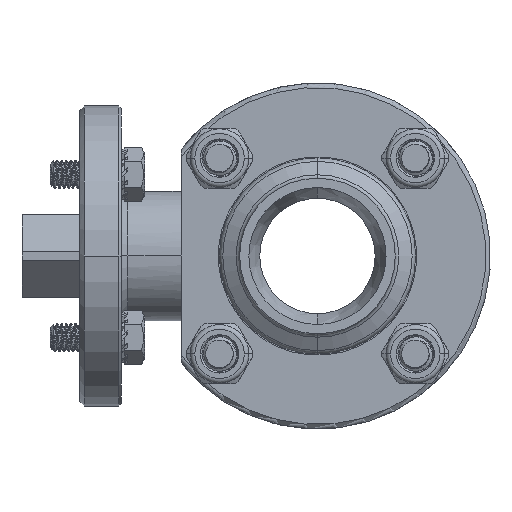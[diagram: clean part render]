
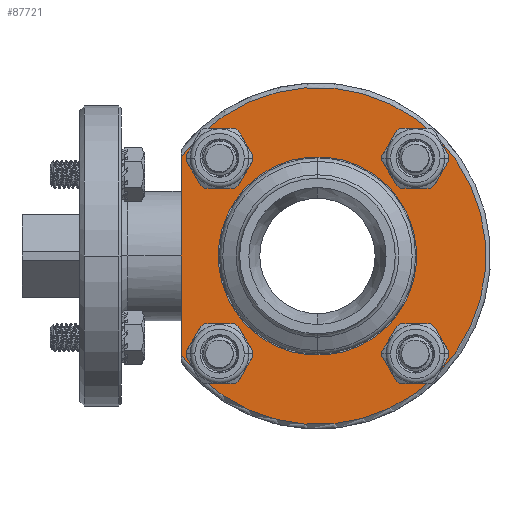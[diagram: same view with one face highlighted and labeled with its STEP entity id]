
A CAD part, left-side view. The second image highlights one B-rep face of the part: STEP entity #87721.
In plain terms, the highlighted planar face has unit normal (-1, 0, 0).
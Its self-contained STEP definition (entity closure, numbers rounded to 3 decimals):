
#4193=CARTESIAN_POINT('',(-27.75,29.5,21.494));
#4228=CARTESIAN_POINT('',(-27.75,29.5,-21.494));
#4261=CARTESIAN_POINT('',(-27.75,0.,0.));
#4262=DIRECTION('',(-1.,0.,0.));
#4263=DIRECTION('',(0.,0.808,-0.589));
#4264=AXIS2_PLACEMENT_3D('',#4261,#4262,#4263);
#4269=DIRECTION('',(0.,0.,1.));
#4270=VECTOR('',#4269,42.988);
#4271=CARTESIAN_POINT('',(-27.75,29.5,-21.494));
#4272=LINE('',#4271,#4270);
#4276=CARTESIAN_POINT('',(-27.75,0.,0.));
#4277=DIRECTION('',(1.,0.,0.));
#4278=DIRECTION('',(0.,0.707,-0.707));
#4279=AXIS2_PLACEMENT_3D('',#4276,#4277,#4278);
#4284=CARTESIAN_POINT('',(-27.75,0.,0.));
#4285=DIRECTION('',(-1.,0.,0.));
#4286=DIRECTION('',(0.,0.707,-0.707));
#4287=AXIS2_PLACEMENT_3D('',#4284,#4285,#4286);
#4292=CARTESIAN_POINT('',(-27.75,21.213,21.213));
#4293=DIRECTION('',(-1.,0.,0.));
#4294=DIRECTION('',(0.,-1.,0.));
#4295=AXIS2_PLACEMENT_3D('',#4292,#4293,#4294);
#4300=CARTESIAN_POINT('',(-27.75,21.213,21.213));
#4301=DIRECTION('',(-1.,0.,0.));
#4302=DIRECTION('',(0.,1.,0.));
#4303=AXIS2_PLACEMENT_3D('',#4300,#4301,#4302);
#4308=CARTESIAN_POINT('',(-27.75,-21.213,21.213));
#4309=DIRECTION('',(-1.,0.,0.));
#4310=DIRECTION('',(0.,-1.,0.));
#4311=AXIS2_PLACEMENT_3D('',#4308,#4309,#4310);
#4316=CARTESIAN_POINT('',(-27.75,-21.213,21.213));
#4317=DIRECTION('',(-1.,0.,0.));
#4318=DIRECTION('',(0.,1.,0.));
#4319=AXIS2_PLACEMENT_3D('',#4316,#4317,#4318);
#4324=CARTESIAN_POINT('',(-27.75,-21.213,-21.213));
#4325=DIRECTION('',(-1.,0.,0.));
#4326=DIRECTION('',(0.,-1.,0.));
#4327=AXIS2_PLACEMENT_3D('',#4324,#4325,#4326);
#4332=CARTESIAN_POINT('',(-27.75,-21.213,-21.213));
#4333=DIRECTION('',(-1.,0.,0.));
#4334=DIRECTION('',(0.,1.,0.));
#4335=AXIS2_PLACEMENT_3D('',#4332,#4333,#4334);
#4340=CARTESIAN_POINT('',(-27.75,21.213,-21.213));
#4341=DIRECTION('',(-1.,0.,0.));
#4342=DIRECTION('',(0.,-1.,0.));
#4343=AXIS2_PLACEMENT_3D('',#4340,#4341,#4342);
#4348=CARTESIAN_POINT('',(-27.75,21.213,-21.213));
#4349=DIRECTION('',(-1.,0.,0.));
#4350=DIRECTION('',(0.,1.,0.));
#4351=AXIS2_PLACEMENT_3D('',#4348,#4349,#4350);
#80730=CARTESIAN_POINT('',(-27.75,15.203,-15.203));
#80731=CARTESIAN_POINT('',(-27.75,-15.203,15.203));
#80732=VERTEX_POINT('',#80730);
#80733=VERTEX_POINT('',#80731);
#80739=VERTEX_POINT('',#4228);
#80740=VERTEX_POINT('',#4193);
#81311=CARTESIAN_POINT('',(-27.75,14.863,21.213));
#81312=CARTESIAN_POINT('',(-27.75,27.563,21.213));
#81313=VERTEX_POINT('',#81311);
#81314=VERTEX_POINT('',#81312);
#81446=CARTESIAN_POINT('',(-27.75,-27.563,21.213));
#81447=CARTESIAN_POINT('',(-27.75,-14.863,21.213));
#81448=VERTEX_POINT('',#81446);
#81449=VERTEX_POINT('',#81447);
#81581=CARTESIAN_POINT('',(-27.75,-27.563,-21.213));
#81582=CARTESIAN_POINT('',(-27.75,-14.863,-21.213));
#81583=VERTEX_POINT('',#81581);
#81584=VERTEX_POINT('',#81582);
#81716=CARTESIAN_POINT('',(-27.75,14.863,-21.213));
#81717=CARTESIAN_POINT('',(-27.75,27.563,-21.213));
#81718=VERTEX_POINT('',#81716);
#81719=VERTEX_POINT('',#81717);
#87682=CARTESIAN_POINT('',(-27.75,0.,0.));
#87683=DIRECTION('',(-1.,0.,0.));
#87684=DIRECTION('',(0.,-0.707,0.707));
#87685=AXIS2_PLACEMENT_3D('',#87682,#87683,#87684);
#87686=PLANE('',#87685);
#87687=ORIENTED_EDGE('',*,*,#87676,.F.);
#87688=ORIENTED_EDGE('',*,*,#87659,.T.);
#87689=EDGE_LOOP('',(#87687,#87688));
#87690=FACE_OUTER_BOUND('',#87689,.F.);
#87692=ORIENTED_EDGE('',*,*,#87691,.F.);
#87694=ORIENTED_EDGE('',*,*,#87693,.T.);
#87695=EDGE_LOOP('',(#87692,#87694));
#87696=FACE_BOUND('',#87695,.F.);
#87698=ORIENTED_EDGE('',*,*,#87697,.T.);
#87700=ORIENTED_EDGE('',*,*,#87699,.T.);
#87701=EDGE_LOOP('',(#87698,#87700));
#87702=FACE_BOUND('',#87701,.F.);
#87704=ORIENTED_EDGE('',*,*,#87703,.T.);
#87706=ORIENTED_EDGE('',*,*,#87705,.T.);
#87707=EDGE_LOOP('',(#87704,#87706));
#87708=FACE_BOUND('',#87707,.F.);
#87710=ORIENTED_EDGE('',*,*,#87709,.T.);
#87712=ORIENTED_EDGE('',*,*,#87711,.T.);
#87713=EDGE_LOOP('',(#87710,#87712));
#87714=FACE_BOUND('',#87713,.F.);
#87716=ORIENTED_EDGE('',*,*,#87715,.T.);
#87718=ORIENTED_EDGE('',*,*,#87717,.T.);
#87719=EDGE_LOOP('',(#87716,#87718));
#87720=FACE_BOUND('',#87719,.F.);
#87721=ADVANCED_FACE('',(#87690,#87696,#87702,#87708,#87714,#87720),#87686,.T.);
#4265=CIRCLE('',#4264,36.5);
#4280=CIRCLE('',#4279,21.5);
#4288=CIRCLE('',#4287,21.5);
#4296=CIRCLE('',#4295,6.35);
#4304=CIRCLE('',#4303,6.35);
#4312=CIRCLE('',#4311,6.35);
#4320=CIRCLE('',#4319,6.35);
#4328=CIRCLE('',#4327,6.35);
#4336=CIRCLE('',#4335,6.35);
#4344=CIRCLE('',#4343,6.35);
#4352=CIRCLE('',#4351,6.35);
#87659=EDGE_CURVE('',#80739,#80740,#4272,.T.);
#87676=EDGE_CURVE('',#80739,#80740,#4265,.T.);
#87691=EDGE_CURVE('',#80732,#80733,#4280,.T.);
#87693=EDGE_CURVE('',#80732,#80733,#4288,.T.);
#87697=EDGE_CURVE('',#81313,#81314,#4296,.T.);
#87699=EDGE_CURVE('',#81314,#81313,#4304,.T.);
#87703=EDGE_CURVE('',#81448,#81449,#4312,.T.);
#87705=EDGE_CURVE('',#81449,#81448,#4320,.T.);
#87709=EDGE_CURVE('',#81583,#81584,#4328,.T.);
#87711=EDGE_CURVE('',#81584,#81583,#4336,.T.);
#87715=EDGE_CURVE('',#81718,#81719,#4344,.T.);
#87717=EDGE_CURVE('',#81719,#81718,#4352,.T.);
